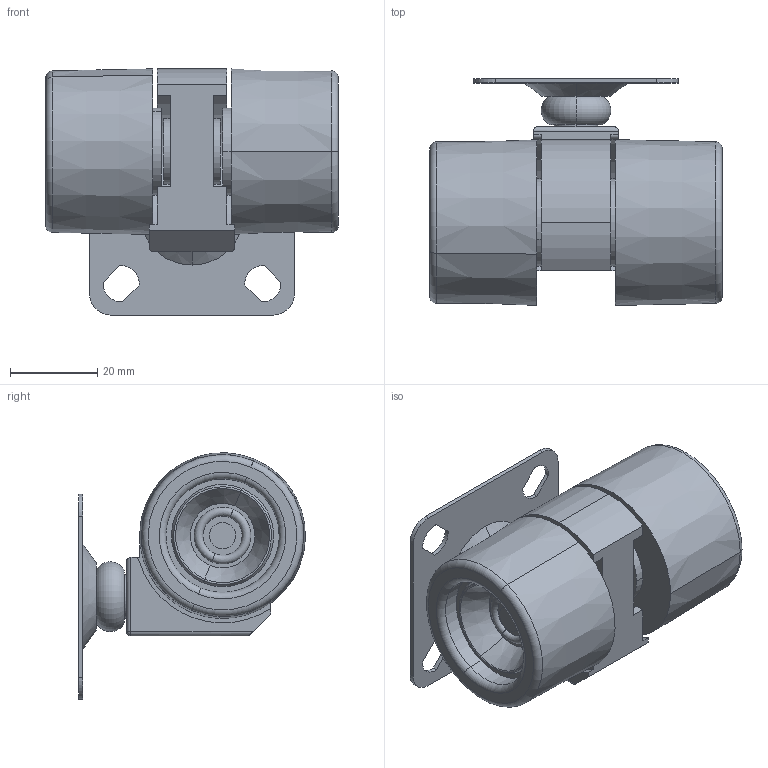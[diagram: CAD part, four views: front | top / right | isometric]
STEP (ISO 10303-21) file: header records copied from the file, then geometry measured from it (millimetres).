
FILE_DESCRIPTION (( 'STEP AP214' ), '1' );
FILE_NAME ('FERRARI-38-P.STEP', '2020-04-11T05:47:41', ( '' ), ( '' ), 'SwSTEP 2.0', 'SolidWorks 2019', '' );
FILE_SCHEMA (( 'AUTOMOTIVE_DESIGN' ));
Length unit declared in the file: millimetre
Products named in the file (4): FERRARI-38-P_partsA; FERRARI-38_wheel; FERRARI-38_partsB; FERRARI-38-P
Assembly tree (4 placements, depth 2):
  FERRARI-38-P
    FERRARI-38_partsB
    FERRARI-38_wheel  x2
    FERRARI-38-P_partsA
Bounding box: 67 x 52 x 56.5 mm (x, y, z)
Volume: 67673.2 mm3; surface area: 21788.1 mm2
Topology: 4 solids, 4 shells, 139 faces, 323 edges, 206 vertices
Faces by surface type: cylinder 55, plane 50, torus 18, cone 14, sphere 2
Entity records: 3473 total; most frequent: DIRECTION 633, CARTESIAN_POINT 574, ORIENTED_EDGE 538, EDGE_CURVE 269, AXIS2_PLACEMENT_3D 249, VERTEX_POINT 174, VECTOR 135, LINE 135
